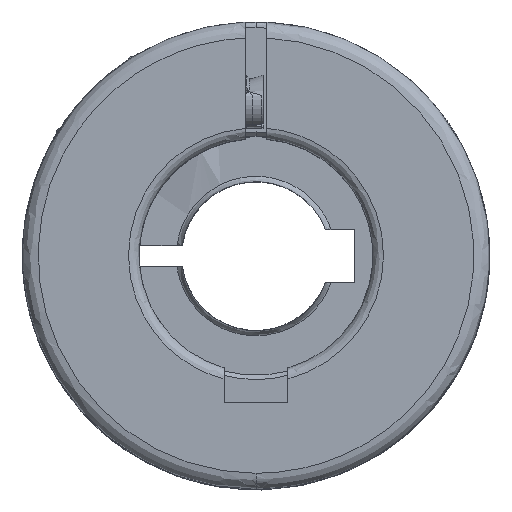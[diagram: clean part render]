
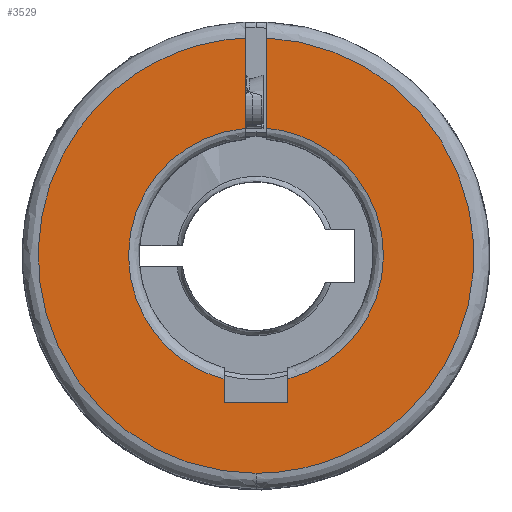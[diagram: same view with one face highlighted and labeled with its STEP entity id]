
A CAD part, top view. The second image highlights one B-rep face of the part: STEP entity #3529.
In plain terms, the highlighted planar face has unit normal (0, 0, 1).
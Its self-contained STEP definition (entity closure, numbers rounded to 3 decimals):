
#3021 = EDGE_CURVE ( 'NONE', #3022, #3035, #10969, .T. ) ;
#3022 = VERTEX_POINT ( 'NONE', #10962 ) ;
#3035 = VERTEX_POINT ( 'NONE', #10796 ) ;
#3037 = EDGE_CURVE ( 'NONE', #3035, #3055, #10989, .T. ) ;
#3051 = VERTEX_POINT ( 'NONE', #11037 ) ;
#3055 = VERTEX_POINT ( 'NONE', #11111 ) ;
#3057 = EDGE_CURVE ( 'NONE', #3055, #3051, #11090, .T. ) ;
#3152 = EDGE_CURVE ( 'NONE', #3051, #3153, #11329, .T. ) ;
#3153 = VERTEX_POINT ( 'NONE', #11325 ) ;
#3529 = ADVANCED_FACE ( 'NONE', ( #12133 ), #12134, .F. ) ;
#3530 = EDGE_LOOP ( 'NONE', ( #3531, #3534, #3535, #3536, #3537, #3538, #3593, #3596, #3599 ) ) ;
#3531 = ORIENTED_EDGE ( 'NONE', *, *, #3532, .F. ) ;
#3532 = EDGE_CURVE ( 'NONE', #3153, #3533, #12159, .T. ) ;
#3533 = VERTEX_POINT ( 'NONE', #12158 ) ;
#3534 = ORIENTED_EDGE ( 'NONE', *, *, #3152, .F. ) ;
#3535 = ORIENTED_EDGE ( 'NONE', *, *, #3057, .F. ) ;
#3536 = ORIENTED_EDGE ( 'NONE', *, *, #3037, .F. ) ;
#3537 = ORIENTED_EDGE ( 'NONE', *, *, #3021, .F. ) ;
#3538 = ORIENTED_EDGE ( 'NONE', *, *, #3539, .F. ) ;
#3539 = EDGE_CURVE ( 'NONE', #3540, #3022, #12151, .T. ) ;
#3540 = VERTEX_POINT ( 'NONE', #12153 ) ;
#3593 = ORIENTED_EDGE ( 'NONE', *, *, #3594, .F. ) ;
#3594 = EDGE_CURVE ( 'NONE', #3595, #3540, #12301, .T. ) ;
#3595 = VERTEX_POINT ( 'NONE', #12297 ) ;
#3596 = ORIENTED_EDGE ( 'NONE', *, *, #3597, .F. ) ;
#3597 = EDGE_CURVE ( 'NONE', #3598, #3595, #12296, .T. ) ;
#3598 = VERTEX_POINT ( 'NONE', #12292 ) ;
#3599 = ORIENTED_EDGE ( 'NONE', *, *, #3600, .F. ) ;
#3600 = EDGE_CURVE ( 'NONE', #3533, #3598, #12291, .T. ) ;
#10796 = CARTESIAN_POINT ( 'NONE',  ( -0.172, 24.15, 31.541 ) ) ;
#10962 = CARTESIAN_POINT ( 'NONE',  ( -0.172, 15.632, 31.541 ) ) ;
#10963 = DIRECTION ( 'NONE',  ( 0., 1., 0. ) ) ;
#10964 = VECTOR ( 'NONE', #10963, 1000. ) ;
#10965 = CARTESIAN_POINT ( 'NONE',  ( -0.172, 3.674, 31.541 ) ) ;
#10969 = LINE ( 'NONE', #10965, #10964 ) ;
#10989 =( BOUNDED_CURVE ( )  B_SPLINE_CURVE ( 3, ( #11036, #11035, #11034, #11033 ),
 .UNSPECIFIED., .F., .T. ) 
 B_SPLINE_CURVE_WITH_KNOTS ( ( 4, 4 ),
 ( 0., 1. ),
 .UNSPECIFIED. ) 
 CURVE ( )  GEOMETRIC_REPRESENTATION_ITEM ( )  RATIONAL_B_SPLINE_CURVE ( ( 1., 0.35, 0.35, 1. ) ) 
 REPRESENTATION_ITEM ( '' )  );
#11033 = CARTESIAN_POINT ( 'NONE',  ( -1.172, -16.826, 31.541 ) ) ;
#11034 = CARTESIAN_POINT ( 'NONE',  ( 37.909, -16.826, 31.541 ) ) ;
#11035 = CARTESIAN_POINT ( 'NONE',  ( 38.863, 22.243, 31.541 ) ) ;
#11036 = CARTESIAN_POINT ( 'NONE',  ( -0.172, 24.15, 31.541 ) ) ;
#11037 = CARTESIAN_POINT ( 'NONE',  ( -2.172, 24.15, 31.541 ) ) ;
#11086 = CARTESIAN_POINT ( 'NONE',  ( -2.172, 24.15, 31.541 ) ) ;
#11087 = CARTESIAN_POINT ( 'NONE',  ( -41.206, 22.243, 31.541 ) ) ;
#11088 = CARTESIAN_POINT ( 'NONE',  ( -40.252, -16.826, 31.541 ) ) ;
#11089 = CARTESIAN_POINT ( 'NONE',  ( -1.172, -16.826, 31.541 ) ) ;
#11090 =( BOUNDED_CURVE ( )  B_SPLINE_CURVE ( 3, ( #11089, #11088, #11087, #11086 ),
 .UNSPECIFIED., .F., .T. ) 
 B_SPLINE_CURVE_WITH_KNOTS ( ( 4, 4 ),
 ( 0., 1. ),
 .UNSPECIFIED. ) 
 CURVE ( )  GEOMETRIC_REPRESENTATION_ITEM ( )  RATIONAL_B_SPLINE_CURVE ( ( 1., 0.35, 0.35, 1. ) ) 
 REPRESENTATION_ITEM ( '' )  );
#11111 = CARTESIAN_POINT ( 'NONE',  ( -1.172, -16.826, 31.541 ) ) ;
#11325 = CARTESIAN_POINT ( 'NONE',  ( -2.172, 15.632, 31.541 ) ) ;
#11326 = DIRECTION ( 'NONE',  ( 0., -1., 0. ) ) ;
#11327 = VECTOR ( 'NONE', #11326, 1000. ) ;
#11328 = CARTESIAN_POINT ( 'NONE',  ( -2.172, 3.674, 31.541 ) ) ;
#11329 = LINE ( 'NONE', #11328, #11327 ) ;
#12128 = DIRECTION ( 'NONE',  ( 0., 1., 0. ) ) ;
#12129 = DIRECTION ( 'NONE',  ( 0., 0., -1. ) ) ;
#12130 = CARTESIAN_POINT ( 'NONE',  ( -1.172, 3.674, 31.541 ) ) ;
#12132 = AXIS2_PLACEMENT_3D ( 'NONE', #12130, #12129, #12128 ) ;
#12133 = FACE_OUTER_BOUND ( 'NONE', #3530, .T. ) ;
#12134 = PLANE ( 'NONE',  #12132 ) ;
#12147 = CARTESIAN_POINT ( 'NONE',  ( -0.172, 15.632, 31.541 ) ) ;
#12148 = CARTESIAN_POINT ( 'NONE',  ( 17.497, 14.155, 31.541 ) ) ;
#12149 = CARTESIAN_POINT ( 'NONE',  ( 18.996, -3.512, 31.541 ) ) ;
#12150 = CARTESIAN_POINT ( 'NONE',  ( 1.828, -7.945, 31.541 ) ) ;
#12151 =( BOUNDED_CURVE ( )  B_SPLINE_CURVE ( 3, ( #12150, #12149, #12148, #12147 ),
 .UNSPECIFIED., .F., .T. ) 
 B_SPLINE_CURVE_WITH_KNOTS ( ( 4, 4 ),
 ( 0., 1. ),
 .UNSPECIFIED. ) 
 CURVE ( )  GEOMETRIC_REPRESENTATION_ITEM ( )  RATIONAL_B_SPLINE_CURVE ( ( 1., 0.445, 0.445, 1. ) ) 
 REPRESENTATION_ITEM ( '' )  );
#12153 = CARTESIAN_POINT ( 'NONE',  ( 1.828, -7.945, 31.541 ) ) ;
#12154 = CARTESIAN_POINT ( 'NONE',  ( -4.172, -7.945, 31.541 ) ) ;
#12155 = CARTESIAN_POINT ( 'NONE',  ( -21.339, -3.512, 31.541 ) ) ;
#12156 = CARTESIAN_POINT ( 'NONE',  ( -19.84, 14.155, 31.541 ) ) ;
#12157 = CARTESIAN_POINT ( 'NONE',  ( -2.172, 15.632, 31.541 ) ) ;
#12158 = CARTESIAN_POINT ( 'NONE',  ( -4.172, -7.945, 31.541 ) ) ;
#12159 =( BOUNDED_CURVE ( )  B_SPLINE_CURVE ( 3, ( #12157, #12156, #12155, #12154 ),
 .UNSPECIFIED., .F., .F. ) 
 B_SPLINE_CURVE_WITH_KNOTS ( ( 4, 4 ),
 ( 0., 1. ),
 .UNSPECIFIED. ) 
 CURVE ( )  GEOMETRIC_REPRESENTATION_ITEM ( )  RATIONAL_B_SPLINE_CURVE ( ( 1., 0.445, 0.445, 1. ) ) 
 REPRESENTATION_ITEM ( '' )  );
#12288 = DIRECTION ( 'NONE',  ( 0., -1., 0. ) ) ;
#12289 = VECTOR ( 'NONE', #12288, 1000. ) ;
#12290 = CARTESIAN_POINT ( 'NONE',  ( -4.172, 3.674, 31.541 ) ) ;
#12291 = LINE ( 'NONE', #12290, #12289 ) ;
#12292 = CARTESIAN_POINT ( 'NONE',  ( -4.172, -10.126, 31.541 ) ) ;
#12293 = DIRECTION ( 'NONE',  ( 1., 0., 0. ) ) ;
#12294 = VECTOR ( 'NONE', #12293, 1000. ) ;
#12295 = CARTESIAN_POINT ( 'NONE',  ( -1.172, -10.126, 31.541 ) ) ;
#12296 = LINE ( 'NONE', #12295, #12294 ) ;
#12297 = CARTESIAN_POINT ( 'NONE',  ( 1.828, -10.126, 31.541 ) ) ;
#12298 = DIRECTION ( 'NONE',  ( 0., 1., 0. ) ) ;
#12299 = VECTOR ( 'NONE', #12298, 1000. ) ;
#12300 = CARTESIAN_POINT ( 'NONE',  ( 1.828, 3.674, 31.541 ) ) ;
#12301 = LINE ( 'NONE', #12300, #12299 ) ;
